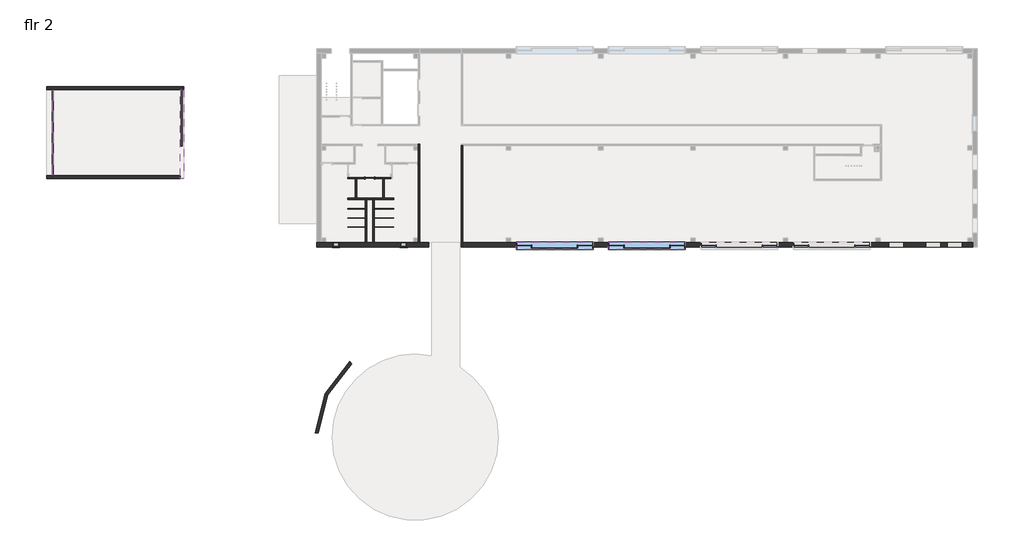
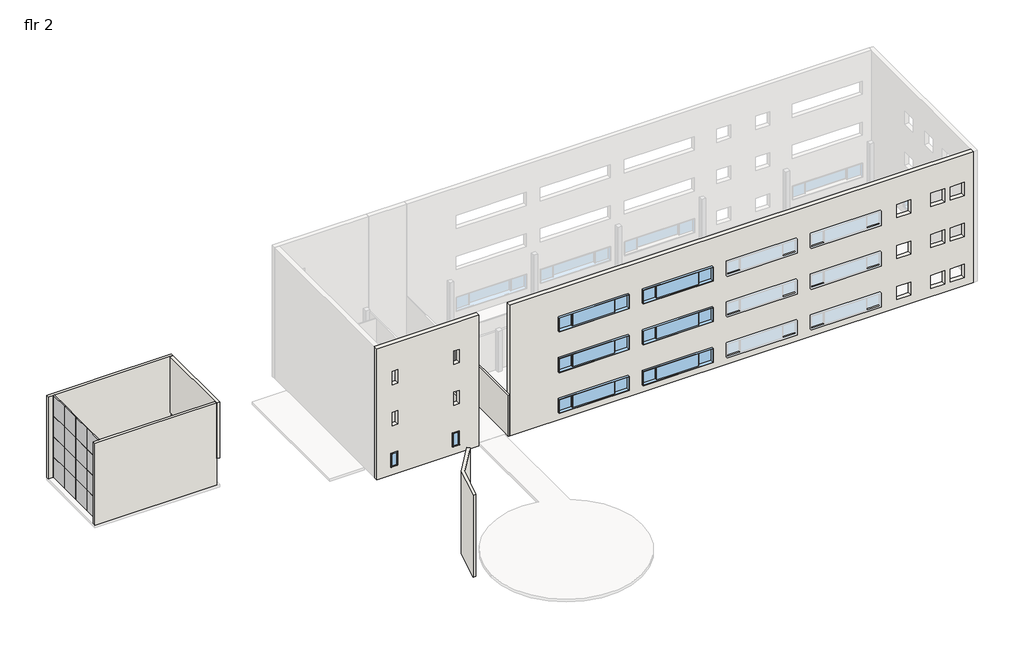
# One storey, part 1 of 3: 22 walls, 17 plates, 8 windows, 1 door.
"""IFC4 building model written with IfcOpenShell, lengths in millimetres."""

from ifc_helpers import new_model, si_unit, point, frame, frame_2d, origin, place, context, project, spatial, polyline, circle_curve, trimmed, segment, composite_curve, outline, extrude, faceted_brep, transform, mapped, element, save
from components import door_c6edcd30, system_panel_system_panel_769dcaa2, system_panel_system_panel_48f34c06, fixed_25_x5_r1_fixed_25_x5_r1_81c53d64, fixed_2_x5_0ba76afd

model = new_model("IFC4")

# Units and contexts
model_context = context("Model", 3, world=origin())
ifc_project = project(units=[si_unit("LENGTHUNIT", "METRE", prefix="MILLI")], contexts=[model_context])

# Site, building, storey
site = spatial("IfcSite", under=ifc_project)
building = spatial("IfcBuilding", under=site)
storey = spatial("IfcBuildingStorey", under=building, Name="flr 2", Elevation=5486.4)

# Door
placement = place(None, origin())
door_shape = door_c6edcd30(model_context)
element("IfcDoor", 1, ObjectType="Sgl Flush : 36\" x 84\"", at=placement, inside=storey, context=model_context, shape_type="MappedRepresentation", body=[
    mapped(door_shape, transform((-110751.290902, 31480.2571029, 5486.4), x_axis=(1.0, 0.0, 0.0), y_axis=(0.0, 1.0, 0.0), z_axis=(0.0, 0.0, 1.0))),
])

# Plates
system_panel_system_panel_shape = system_panel_system_panel_769dcaa2(model_context)
element("IfcPlate", 2, ObjectType="System Panel : System Panel", at=placement, inside=storey, context=model_context, shape_type="MappedRepresentation", body=[
    mapped(system_panel_system_panel_shape, transform((-142145.690902, 39156.6376272, 5486.4), x_axis=(0.0, -1.0, 0.0), y_axis=(1.0, 0.0, 0.0), z_axis=(0.0, 0.0, 1.0))),
])
element("IfcPlate", 3, ObjectType="System Panel : System Panel", at=placement, inside=storey, context=model_context, shape_type="MappedRepresentation", body=[
    mapped(system_panel_system_panel_shape, transform((-142145.690902, 34937.1597241, 5486.4), x_axis=(0.0, -1.0, 0.0), y_axis=(1.0, 0.0, 0.0), z_axis=(0.0, 0.0, 1.0))),
])
element("IfcPlate", 4, ObjectType="System Panel : System Panel", at=placement, inside=storey, context=model_context, shape_type="MappedRepresentation", body=[
    mapped(system_panel_system_panel_shape, transform((-142145.690902, 37046.8986756, 5486.4), x_axis=(0.0, -1.0, 0.0), y_axis=(1.0, 0.0, 0.0), z_axis=(0.0, 0.0, 1.0))),
])
element("IfcPlate", 5, ObjectType="System Panel : System Panel", at=placement, inside=storey, context=model_context, shape_type="MappedRepresentation", body=[
    mapped(system_panel_system_panel_shape, transform((-142145.690902, 32827.4207725, 5486.4), x_axis=(0.0, -1.0, 0.0), y_axis=(1.0, 0.0, 0.0), z_axis=(0.0, 0.0, 1.0))),
])
element("IfcPlate", 6, ObjectType="System Panel : System Panel", at=placement, inside=storey, context=model_context, shape_type="MappedRepresentation", body=[
    mapped(system_panel_system_panel_shape, transform((-142145.690902, 39156.6376272, 10210.8), x_axis=(0.0, -1.0, 0.0), y_axis=(1.0, 0.0, 0.0), z_axis=(0.0, 0.0, 1.0))),
])
element("IfcPlate", 7, ObjectType="System Panel : System Panel", at=placement, inside=storey, context=model_context, shape_type="MappedRepresentation", body=[
    mapped(system_panel_system_panel_shape, transform((-142145.690902, 37046.8986756, 10210.8), x_axis=(0.0, -1.0, 0.0), y_axis=(1.0, 0.0, 0.0), z_axis=(0.0, 0.0, 1.0))),
])
element("IfcPlate", 8, ObjectType="System Panel : System Panel", at=placement, inside=storey, context=model_context, shape_type="MappedRepresentation", body=[
    mapped(system_panel_system_panel_shape, transform((-142145.690902, 34937.1597241, 10210.8), x_axis=(0.0, -1.0, 0.0), y_axis=(1.0, 0.0, 0.0), z_axis=(0.0, 0.0, 1.0))),
])
element("IfcPlate", 9, ObjectType="System Panel : System Panel", at=placement, inside=storey, context=model_context, shape_type="MappedRepresentation", body=[
    mapped(system_panel_system_panel_shape, transform((-142145.690902, 32827.4207725, 10210.8), x_axis=(0.0, -1.0, 0.0), y_axis=(1.0, 0.0, 0.0), z_axis=(0.0, 0.0, 1.0))),
])
element("IfcPlate", 10, ObjectType="System Panel : System Panel", at=placement, inside=storey, context=model_context, shape_type="MappedRepresentation", body=[
    mapped(system_panel_system_panel_shape, transform((-142145.690902, 39156.6376272, 12573.0), x_axis=(0.0, -1.0, 0.0), y_axis=(1.0, 0.0, 0.0), z_axis=(0.0, 0.0, 1.0))),
])
element("IfcPlate", 11, ObjectType="System Panel : System Panel", at=placement, inside=storey, context=model_context, shape_type="MappedRepresentation", body=[
    mapped(system_panel_system_panel_shape, transform((-142145.690902, 37046.8986756, 12573.0), x_axis=(0.0, -1.0, 0.0), y_axis=(1.0, 0.0, 0.0), z_axis=(0.0, 0.0, 1.0))),
])
element("IfcPlate", 12, ObjectType="System Panel : System Panel", at=placement, inside=storey, context=model_context, shape_type="MappedRepresentation", body=[
    mapped(system_panel_system_panel_shape, transform((-142145.690902, 34937.1597241, 12573.0), x_axis=(0.0, -1.0, 0.0), y_axis=(1.0, 0.0, 0.0), z_axis=(0.0, 0.0, 1.0))),
])
element("IfcPlate", 13, ObjectType="System Panel : System Panel", at=placement, inside=storey, context=model_context, shape_type="MappedRepresentation", body=[
    mapped(system_panel_system_panel_shape, transform((-142145.690902, 32827.4207725, 12573.0), x_axis=(0.0, -1.0, 0.0), y_axis=(1.0, 0.0, 0.0), z_axis=(0.0, 0.0, 1.0))),
])
element("IfcPlate", 14, ObjectType="System Panel : System Panel", at=placement, inside=storey, context=model_context, shape_type="MappedRepresentation", body=[
    mapped(system_panel_system_panel_shape, transform((-142145.690902, 39156.6376272, 7848.6), x_axis=(0.0, -1.0, 0.0), y_axis=(1.0, 0.0, 0.0), z_axis=(0.0, 0.0, 1.0))),
])
element("IfcPlate", 15, ObjectType="System Panel : System Panel", at=placement, inside=storey, context=model_context, shape_type="MappedRepresentation", body=[
    mapped(system_panel_system_panel_shape, transform((-142145.690902, 37046.8986756, 7848.6), x_axis=(0.0, -1.0, 0.0), y_axis=(1.0, 0.0, 0.0), z_axis=(0.0, 0.0, 1.0))),
])
element("IfcPlate", 16, ObjectType="System Panel : System Panel", at=placement, inside=storey, context=model_context, shape_type="MappedRepresentation", body=[
    mapped(system_panel_system_panel_shape, transform((-142145.690902, 34937.1597241, 7848.6), x_axis=(0.0, -1.0, 0.0), y_axis=(1.0, 0.0, 0.0), z_axis=(0.0, 0.0, 1.0))),
])
element("IfcPlate", 17, ObjectType="System Panel : System Panel", at=placement, inside=storey, context=model_context, shape_type="MappedRepresentation", body=[
    mapped(system_panel_system_panel_shape, transform((-142145.690902, 32827.4207725, 7848.6), x_axis=(0.0, -1.0, 0.0), y_axis=(1.0, 0.0, 0.0), z_axis=(0.0, 0.0, 1.0))),
])
system_panel_system_panel_2_shape = system_panel_system_panel_48f34c06(model_context)
element("IfcPlate", 18, ObjectType="System Panel : System Panel", at=placement, inside=storey, context=model_context, shape_type="MappedRepresentation", body=[
    mapped(system_panel_system_panel_2_shape, transform((-129350.440902, 37509.6791999, 5486.4), x_axis=(0.0, -1.0, 0.0), y_axis=(1.0, 0.0, 0.0), z_axis=(0.0, 0.0, 1.0))),
])

# Walls
element("IfcWall", 19, ObjectType="Generic - 6\"", at=placement, inside=storey, context=model_context, shape_type="SweptSolid", body=[
    extrude(outline(polyline([(-142221.890902, 40211.5071029), (-142221.890902, 40240.0821029), (-142069.490902, 40240.0821029), (-142069.490902, 40211.5071029), (-142221.890902, 40211.5071029)])), frame((0.0, 0.0, 5486.4), z_axis=(0.0, 0.0, 1.0), x_axis=(1.0, 0.0, 0.0)), (0.0, 0.0, 1.0), 9448.8),
])
element("IfcWall", 20, ObjectType="Generic - 6\"", at=placement, inside=storey, context=model_context, shape_type="SweptSolid", body=[
    extrude(outline(polyline([(-142221.890902, 31731.2762968), (-142221.890902, 31772.5512968), (-142069.490902, 31772.5512968), (-142069.490902, 31731.2762968), (-142221.890902, 31731.2762968)])), frame((0.0, 0.0, 5486.4), z_axis=(0.0, 0.0, 1.0), x_axis=(1.0, 0.0, 0.0)), (0.0, 0.0, 1.0), 9448.8),
])
element("IfcWall", 21, ObjectType="Interior - 5 1/2\" Partition (1-hr)", at=placement, inside=storey, context=model_context, shape_type="Brep", body=[
    faceted_brep([(-105810.990902, 25084.2196029, 5486.4), (-105810.990902, 34826.7071029, 5486.4), (-105810.990902, 34826.7071029, 10210.8), (-105810.990902, 25084.2196029, 10210.8), (-105950.690902, 25084.2196029, 5486.4), (-105950.690902, 25084.2196029, 10210.8), (-105950.690902, 34826.7071029, 10210.8), (-105950.690902, 34826.7071029, 9906.0), (-105950.690902, 34826.7071029, 5486.4), (-105950.690902, 34687.0071029, 5486.4), (-105950.690902, 32997.9071029, 5486.4), (-105950.690902, 32858.2071029, 5486.4)], [[[0, 1, 2, 3]], [[4, 5, 6, 7, 8, 9, 10, 11]], [[1, 0, 4, 11, 10, 9, 8]], [[3, 2, 6, 5]], [[2, 1, 8, 7, 6]], [[0, 3, 5, 4]]]),
])
element("IfcWall", 22, ObjectType="Interior - 5 1/2\" Partition (1-hr)", at=placement, inside=storey, context=model_context, shape_type="Brep", body=[
    faceted_brep([(-108687.540902, 31550.1071029, 5486.4), (-110294.090902, 31550.1071029, 5486.4), (-110294.090902, 31550.1071029, 7620.0), (-111208.490902, 31550.1071029, 7620.0), (-111208.490902, 31550.1071029, 5486.4), (-112815.040902, 31550.1071029, 5486.4), (-112954.740902, 31550.1071029, 5486.4), (-112954.740902, 31550.1071029, 9906.0), (-112815.040902, 31550.1071029, 9906.0), (-108687.540902, 31550.1071029, 9906.0), (-110294.090902, 31410.4071029, 7620.0), (-110294.090902, 31410.4071029, 5486.4), (-109449.540902, 31410.4071029, 5486.4), (-109309.840902, 31410.4071029, 5486.4), (-108687.540902, 31410.4071029, 5486.4), (-108687.540902, 31410.4071029, 9906.0), (-109309.840902, 31410.4071029, 9906.0), (-109449.540902, 31410.4071029, 9906.0), (-112053.040902, 31410.4071029, 9906.0), (-112192.740902, 31410.4071029, 9906.0), (-112954.740902, 31410.4071029, 9906.0), (-112954.740902, 31410.4071029, 5486.4), (-112192.740902, 31410.4071029, 5486.4), (-112053.040902, 31410.4071029, 5486.4), (-111208.490902, 31410.4071029, 5486.4), (-111208.490902, 31410.4071029, 7620.0)], [[[0, 1, 2, 3, 4, 5, 6, 7, 8, 9]], [[10, 11, 12, 13, 14, 15, 16, 17, 18, 19, 20, 21, 22, 23, 24, 25]], [[14, 13, 12, 11, 1, 0]], [[24, 23, 22, 21, 6, 5, 4]], [[7, 6, 21, 20]], [[0, 9, 15, 14]], [[9, 8, 7, 20, 19, 18, 17, 16, 15]], [[2, 1, 11, 10]], [[3, 2, 10, 25]], [[4, 3, 25, 24]]]),
])
element("IfcWall", 23, ObjectType="Interior - 5 1/2\" Partition (1-hr)", at=placement, inside=storey, context=model_context, shape_type="Brep", body=[
    faceted_brep([(-110440.140902, 29351.4196029, 5486.4), (-110440.140902, 25084.2196029, 5486.4), (-110440.140902, 25084.2196029, 10210.8), (-110440.140902, 29351.4196029, 10210.8), (-110300.440902, 29351.4196029, 5486.4), (-110300.440902, 29351.4196029, 10210.8), (-110300.440902, 25084.2196029, 10210.8), (-110300.440902, 25084.2196029, 5486.4), (-110300.440902, 26620.9196029, 5486.4), (-110300.440902, 26646.3196029, 5486.4), (-110300.440902, 27509.9196029, 5486.4), (-110300.440902, 27535.3196029, 5486.4), (-110300.440902, 28424.3196029, 5486.4), (-110300.440902, 28449.7196029, 5486.4)], [[[0, 1, 2, 3]], [[4, 5, 6, 7, 8, 9, 10, 11, 12, 13]], [[1, 0, 4, 13, 12, 11, 10, 9, 8, 7]], [[3, 2, 6, 5]], [[0, 3, 5, 4]], [[2, 1, 7, 6]]]),
])
element("IfcWall", 24, ObjectType="Interior - 5 1/2\" Partition (1-hr)", at=placement, inside=storey, context=model_context, shape_type="Brep", body=[
    faceted_brep([(-112961.090902, 29351.4196029, 5486.4), (-111202.140902, 29351.4196029, 5486.4), (-111062.440902, 29351.4196029, 5486.4), (-110440.140902, 29351.4196029, 5486.4), (-110300.440902, 29351.4196029, 5486.4), (-108389.090902, 29351.4196029, 5486.4), (-108389.090902, 29351.4196029, 9906.0), (-112961.090902, 29351.4196029, 9906.0), (-112961.090902, 29491.1196029, 5486.4), (-112961.090902, 29491.1196029, 9906.0), (-112192.740902, 29491.1196029, 9906.0), (-112053.040902, 29491.1196029, 9906.0), (-109449.540902, 29491.1196029, 9906.0), (-109309.840902, 29491.1196029, 9906.0), (-108389.090902, 29491.1196029, 9906.0), (-108389.090902, 29491.1196029, 5486.4), (-109309.840902, 29491.1196029, 5486.4), (-109449.540902, 29491.1196029, 5486.4), (-112053.040902, 29491.1196029, 5486.4), (-112192.740902, 29491.1196029, 5486.4)], [[[0, 1, 2, 3, 4, 5, 6, 7]], [[8, 9, 10, 11, 12, 13, 14, 15, 16, 17, 18, 19]], [[5, 4, 3, 2, 1, 0, 8, 19, 18, 17, 16, 15]], [[6, 5, 15, 14]], [[0, 7, 9, 8]], [[7, 6, 14, 13, 12, 11, 10, 9]]]),
])
element("IfcWall", 25, ObjectType="Interior - 5 1/2\" Partition (1-hr)", at=placement, inside=storey, context=model_context, shape_type="SweptSolid", body=[
    extrude(outline(polyline([(-109309.840902, 31410.4071029), (-109309.840902, 29491.1196029), (-109449.540902, 29491.1196029), (-109449.540902, 31410.4071029), (-109309.840902, 31410.4071029)])), frame((0.0, 0.0, 5486.4), z_axis=(0.0, 0.0, 1.0), x_axis=(1.0, 0.0, 0.0)), (0.0, 0.0, 1.0), 4419.6),
])
element("IfcWall", 26, ObjectType="Interior - 5 1/2\" Partition (1-hr)", at=placement, inside=storey, context=model_context, shape_type="Brep", body=[
    faceted_brep([(-111202.140902, 29351.4196029, 5486.4), (-111202.140902, 28449.7196029, 5486.4), (-111202.140902, 28424.3196029, 5486.4), (-111202.140902, 27535.3196029, 5486.4), (-111202.140902, 27509.9196029, 5486.4), (-111202.140902, 26646.3196029, 5486.4), (-111202.140902, 26620.9196029, 5486.4), (-111202.140902, 25084.2196029, 5486.4), (-111202.140902, 25084.2196029, 10210.8), (-111202.140902, 29351.4196029, 10210.8), (-111062.440902, 29351.4196029, 5486.4), (-111062.440902, 29351.4196029, 10210.8), (-111062.440902, 25084.2196029, 10210.8), (-111062.440902, 25084.2196029, 5486.4)], [[[0, 1, 2, 3, 4, 5, 6, 7, 8, 9]], [[10, 11, 12, 13]], [[7, 6, 5, 4, 3, 2, 1, 0, 10, 13]], [[9, 8, 12, 11]], [[0, 9, 11, 10]], [[8, 7, 13, 12]]]),
])
element("IfcWall", 27, ObjectType="Interior - 5 1/2\" Partition (1-hr)", at=placement, inside=storey, context=model_context, shape_type="SweptSolid", body=[
    extrude(outline(polyline([(-112192.740902, 29491.1196029), (-112192.740902, 31410.4071029), (-112053.040902, 31410.4071029), (-112053.040902, 29491.1196029), (-112192.740902, 29491.1196029)])), frame((0.0, 0.0, 5486.4), z_axis=(0.0, 0.0, 1.0), x_axis=(1.0, 0.0, 0.0)), (0.0, 0.0, 1.0), 4419.6),
])
element("IfcWall", 28, ObjectType="Interior - 5 1/2\" Partition (1-hr)", at=placement, inside=storey, context=model_context, shape_type="Brep", body=[
    faceted_brep([(-101677.140902, 34687.0071029, 5486.4), (-101677.140902, 24630.1946029, 5486.4), (-101677.140902, 24630.1946029, 10210.8), (-101677.140902, 34687.0071029, 10210.8), (-101677.140902, 34687.0071029, 9906.0), (-101537.440902, 34687.0071029, 5486.4), (-101537.440902, 34687.0071029, 10210.8), (-101537.440902, 24630.1946029, 10210.8), (-101537.440902, 24630.1946029, 5486.4), (-101537.440902, 25084.2196029, 5486.4)], [[[0, 1, 2, 3, 4]], [[5, 6, 7, 8, 9]], [[1, 0, 5, 9, 8]], [[3, 2, 7, 6]], [[0, 4, 3, 6, 5]], [[2, 1, 8, 7]]]),
])
element("IfcWall", 29, ObjectType="a_Mtl panel on Mtl stud", at=placement, inside=storey, context=model_context, shape_type="Brep", body=[
    faceted_brep([(-142755.290902, 40240.0821029, 5486.4), (-142221.890902, 40240.0821029, 5486.4), (-142069.490902, 40240.0821029, 5486.4), (-129194.865902, 40240.0821029, 5486.4), (-129194.865902, 40240.0821029, 8534.4), (-129194.865902, 40240.0821029, 14935.2), (-129506.015902, 40240.0821029, 14935.2), (-142069.490902, 40240.0821029, 14935.2), (-142221.890902, 40240.0821029, 14935.2), (-142755.290902, 40240.0821029, 14935.2), (-142755.290902, 40551.2321029, 5486.4), (-142755.290902, 40551.2321029, 14935.2), (-137857.7702369, 40551.2321029, 14935.2), (-137421.290902, 40551.2321029, 14935.2), (-129194.865902, 40551.2321029, 14935.2), (-129194.865902, 40551.2321029, 5486.4)], [[[0, 1, 2, 3, 4, 5, 6, 7, 8, 9]], [[10, 11, 12, 13, 14, 15]], [[3, 2, 1, 0, 10, 15]], [[9, 8, 7, 6, 5, 14, 13, 12, 11]], [[0, 9, 11, 10]], [[5, 4, 3, 15, 14]]]),
])
element("IfcWall", 30, ObjectType="a_Mtl panel on Mtl stud", at=placement, inside=storey, context=model_context, shape_type="Brep", body=[
    faceted_brep([(-129506.015902, 31731.2762968, 5486.4), (-142069.490902, 31731.2762968, 5486.4), (-142221.890902, 31731.2762968, 5486.4), (-142755.290902, 31731.2762968, 5486.4), (-142755.290902, 31731.2762968, 14935.2), (-142221.890902, 31731.2762968, 14935.2), (-142069.490902, 31731.2762968, 14935.2), (-129506.015902, 31731.2762968, 14935.2), (-129506.015902, 31420.1262968, 5486.4), (-129506.015902, 31420.1262968, 8534.4), (-129506.015902, 31420.1262968, 14935.2), (-137421.290902, 31420.1262968, 14935.2), (-137857.7702369, 31420.1262968, 14935.2), (-142755.290902, 31420.1262968, 14935.2), (-142755.290902, 31420.1262968, 5486.4)], [[[0, 1, 2, 3, 4, 5, 6, 7]], [[8, 9, 10, 11, 12, 13, 14]], [[3, 2, 1, 0, 8, 14]], [[4, 3, 14, 13]], [[7, 6, 5, 4, 13, 12, 11, 10]], [[0, 7, 10, 9, 8]]]),
])
element("IfcWall", 31, ObjectType="a_Mtl panel on Mtl stud", at=placement, inside=storey, context=model_context, shape_type="Brep", body=[
    faceted_brep([(-129506.015902, 40240.0821029, 8534.4), (-129506.015902, 31420.1262968, 8534.4), (-129506.015902, 31420.1262968, 14935.2), (-129506.015902, 31731.2762968, 14935.2), (-129506.015902, 40240.0821029, 14935.2), (-129194.865902, 40240.0821029, 8534.4), (-129194.865902, 40240.0821029, 14935.2), (-129194.865902, 31420.1262968, 14935.2), (-129194.865902, 31420.1262968, 8534.4)], [[[0, 1, 2, 3, 4]], [[5, 6, 7, 8]], [[1, 0, 5, 8]], [[4, 3, 2, 7, 6]], [[2, 1, 8, 7]], [[0, 4, 6, 5]]]),
])
element("IfcWall", 32, ObjectType="a_Stone on CMU", at=placement, inside=storey, context=model_context, shape_type="Brep", body=[
    faceted_brep([(-104912.8074925, 25084.2196029, 5486.4), (-105810.990902, 25084.2196029, 5486.4), (-105950.690902, 25084.2196029, 5486.4), (-110300.440902, 25084.2196029, 5486.4), (-110440.140902, 25084.2196029, 5486.4), (-111062.440902, 25084.2196029, 5486.4), (-111202.140902, 25084.2196029, 5486.4), (-115553.8578209, 25084.2196029, 5486.4), (-116007.8828209, 25084.2196029, 5486.4), (-116007.8828209, 25084.2196029, 20574.0), (-115553.8578209, 25084.2196029, 20574.0), (-104912.8074925, 25084.2196029, 20574.0), (-104912.8074925, 25084.2196029, 19659.6), (-107703.290902, 25084.2196029, 7924.8), (-107703.290902, 25084.2196029, 6400.8), (-107093.690902, 25084.2196029, 6400.8), (-107093.690902, 25084.2196029, 7924.8), (-114408.890902, 25084.2196029, 7924.8), (-114408.890902, 25084.2196029, 6400.8), (-113799.290902, 25084.2196029, 6400.8), (-113799.290902, 25084.2196029, 7924.8), (-107633.440902, 25084.2196029, 12649.2), (-107633.440902, 25084.2196029, 11125.2), (-107023.840902, 25084.2196029, 11125.2), (-107023.840902, 25084.2196029, 12649.2), (-114339.040902, 25084.2196029, 12649.2), (-114339.040902, 25084.2196029, 11125.2), (-113729.440902, 25084.2196029, 11125.2), (-113729.440902, 25084.2196029, 12649.2), (-107633.440902, 25084.2196029, 17373.6), (-107633.440902, 25084.2196029, 15849.6), (-107023.840902, 25084.2196029, 15849.6), (-107023.840902, 25084.2196029, 17373.6), (-114339.040902, 25084.2196029, 17373.6), (-114339.040902, 25084.2196029, 15849.6), (-113729.440902, 25084.2196029, 15849.6), (-113729.440902, 25084.2196029, 17373.6), (-104912.8074925, 24630.1946029, 5486.4), (-104912.8074925, 24630.1946029, 20574.0), (-116007.8828209, 24630.1946029, 20574.0), (-116007.8828209, 24630.1946029, 5486.4), (-107703.290902, 24630.1946029, 7924.8), (-107093.690902, 24630.1946029, 7924.8), (-107093.690902, 24630.1946029, 6400.8), (-107703.290902, 24630.1946029, 6400.8), (-114408.890902, 24630.1946029, 7924.8), (-113799.290902, 24630.1946029, 7924.8), (-113799.290902, 24630.1946029, 6400.8), (-114408.890902, 24630.1946029, 6400.8), (-107633.440902, 24630.1946029, 12649.2), (-107023.840902, 24630.1946029, 12649.2), (-107023.840902, 24630.1946029, 11125.2), (-107633.440902, 24630.1946029, 11125.2), (-114339.040902, 24630.1946029, 12649.2), (-113729.440902, 24630.1946029, 12649.2), (-113729.440902, 24630.1946029, 11125.2), (-114339.040902, 24630.1946029, 11125.2), (-107633.440902, 24630.1946029, 17373.6), (-107023.840902, 24630.1946029, 17373.6), (-107023.840902, 24630.1946029, 15849.6), (-107633.440902, 24630.1946029, 15849.6), (-114339.040902, 24630.1946029, 17373.6), (-113729.440902, 24630.1946029, 17373.6), (-113729.440902, 24630.1946029, 15849.6), (-114339.040902, 24630.1946029, 15849.6)], [[[0, 1, 2, 3, 4, 5, 6, 7, 8, 9, 10, 11, 12], [13, 14, 15, 16], [17, 18, 19, 20], [21, 22, 23, 24], [25, 26, 27, 28], [29, 30, 31, 32], [33, 34, 35, 36]], [[37, 38, 39, 40], [41, 42, 43, 44], [45, 46, 47, 48], [49, 50, 51, 52], [53, 54, 55, 56], [57, 58, 59, 60], [61, 62, 63, 64]], [[8, 7, 6, 5, 4, 3, 2, 1, 0, 37, 40]], [[11, 10, 9, 39, 38]], [[9, 8, 40, 39]], [[0, 12, 11, 38, 37]], [[14, 13, 41, 44]], [[15, 14, 44, 43]], [[16, 15, 43, 42]], [[13, 16, 42, 41]], [[18, 17, 45, 48]], [[19, 18, 48, 47]], [[20, 19, 47, 46]], [[17, 20, 46, 45]], [[22, 21, 49, 52]], [[23, 22, 52, 51]], [[24, 23, 51, 50]], [[21, 24, 50, 49]], [[26, 25, 53, 56]], [[27, 26, 56, 55]], [[28, 27, 55, 54]], [[25, 28, 54, 53]], [[30, 29, 57, 60]], [[31, 30, 60, 59]], [[32, 31, 59, 58]], [[29, 32, 58, 57]], [[34, 33, 61, 64]], [[35, 34, 64, 63]], [[36, 35, 63, 62]], [[33, 36, 62, 61]]]),
])
element("IfcWall", 33, ObjectType="a_Stone on CMU", at=placement, inside=storey, context=model_context, shape_type="Brep", body=[
    faceted_brep([(-51085.103402, 25084.2196029, 5486.4), (-101537.440902, 25084.2196029, 5486.4), (-101537.440902, 25084.2196029, 20574.0), (-51085.103402, 25084.2196029, 20574.0), (-59398.840902, 25084.2196029, 17373.6), (-59398.840902, 25084.2196029, 15849.6), (-57874.840902, 25084.2196029, 15849.6), (-57874.840902, 25084.2196029, 17373.6), (-55741.240902, 25084.2196029, 17373.6), (-55741.240902, 25084.2196029, 15849.6), (-54217.240902, 25084.2196029, 15849.6), (-54217.240902, 25084.2196029, 17373.6), (-53607.640902, 25084.2196029, 17373.6), (-53607.640902, 25084.2196029, 15849.6), (-52083.640902, 25084.2196029, 15849.6), (-52083.640902, 25084.2196029, 17373.6), (-59398.840902, 25084.2196029, 12649.2), (-59398.840902, 25084.2196029, 11125.2), (-57874.840902, 25084.2196029, 11125.2), (-57874.840902, 25084.2196029, 12649.2), (-55741.240902, 25084.2196029, 12649.2), (-55741.240902, 25084.2196029, 11125.2), (-54217.240902, 25084.2196029, 11125.2), (-54217.240902, 25084.2196029, 12649.2), (-53607.640902, 25084.2196029, 12649.2), (-53607.640902, 25084.2196029, 11125.2), (-52083.640902, 25084.2196029, 11125.2), (-52083.640902, 25084.2196029, 12649.2), (-59398.840902, 25084.2196029, 7924.8), (-59398.840902, 25084.2196029, 6400.8), (-57874.840902, 25084.2196029, 6400.8), (-57874.840902, 25084.2196029, 7924.8), (-55741.240902, 25084.2196029, 7924.8), (-55741.240902, 25084.2196029, 6400.8), (-54217.240902, 25084.2196029, 6400.8), (-54217.240902, 25084.2196029, 7924.8), (-53607.640902, 25084.2196029, 7924.8), (-53607.640902, 25084.2196029, 6400.8), (-52083.640902, 25084.2196029, 6400.8), (-52083.640902, 25084.2196029, 7924.8), (-96273.290902, 25084.2196029, 7924.8), (-96273.290902, 25084.2196029, 6400.8), (-88653.290902, 25084.2196029, 6400.8), (-88653.290902, 25084.2196029, 7924.8), (-96273.290902, 25084.2196029, 12623.8), (-96273.290902, 25084.2196029, 11099.8), (-88653.290902, 25084.2196029, 11099.8), (-88653.290902, 25084.2196029, 12623.8), (-96273.290902, 25084.2196029, 17322.8), (-96273.290902, 25084.2196029, 15798.8), (-88653.290902, 25084.2196029, 15798.8), (-88653.290902, 25084.2196029, 17322.8), (-87129.290902, 25084.2196029, 7924.8), (-87129.290902, 25084.2196029, 6400.8), (-79509.290902, 25084.2196029, 6400.8), (-79509.290902, 25084.2196029, 7924.8), (-87129.290902, 25084.2196029, 12623.8), (-87129.290902, 25084.2196029, 11099.8), (-79509.290902, 25084.2196029, 11099.8), (-79509.290902, 25084.2196029, 12623.8), (-87129.290902, 25084.2196029, 17322.8), (-87129.290902, 25084.2196029, 15798.8), (-79509.290902, 25084.2196029, 15798.8), (-79509.290902, 25084.2196029, 17322.8), (-77985.290902, 25084.2196029, 7924.8), (-77985.290902, 25084.2196029, 6400.8), (-70365.290902, 25084.2196029, 6400.8), (-70365.290902, 25084.2196029, 7924.8), (-77985.290902, 25084.2196029, 12623.8), (-77985.290902, 25084.2196029, 11099.8), (-70365.290902, 25084.2196029, 11099.8), (-70365.290902, 25084.2196029, 12623.8), (-77985.290902, 25084.2196029, 17322.8), (-77985.290902, 25084.2196029, 15798.8), (-70365.290902, 25084.2196029, 15798.8), (-70365.290902, 25084.2196029, 17322.8), (-68841.290902, 25084.2196029, 7924.8), (-68841.290902, 25084.2196029, 6400.8), (-61221.290902, 25084.2196029, 6400.8), (-61221.290902, 25084.2196029, 7924.8), (-68841.290902, 25084.2196029, 12623.8), (-68841.290902, 25084.2196029, 11099.8), (-61221.290902, 25084.2196029, 11099.8), (-61221.290902, 25084.2196029, 12623.8), (-68841.290902, 25084.2196029, 17322.8), (-68841.290902, 25084.2196029, 15798.8), (-61221.290902, 25084.2196029, 15798.8), (-61221.290902, 25084.2196029, 17322.8), (-51085.103402, 24630.1946029, 5486.4), (-51085.103402, 24630.1946029, 20574.0), (-101537.440902, 24630.1946029, 20574.0), (-101537.440902, 24630.1946029, 19659.6), (-101537.440902, 24630.1946029, 14935.2), (-101537.440902, 24630.1946029, 10210.8), (-101537.440902, 24630.1946029, 5486.4), (-59398.840902, 24630.1946029, 17373.6), (-57874.840902, 24630.1946029, 17373.6), (-57874.840902, 24630.1946029, 15849.6), (-59398.840902, 24630.1946029, 15849.6), (-55741.240902, 24630.1946029, 17373.6), (-54217.240902, 24630.1946029, 17373.6), (-54217.240902, 24630.1946029, 15849.6), (-55741.240902, 24630.1946029, 15849.6), (-53607.640902, 24630.1946029, 17373.6), (-52083.640902, 24630.1946029, 17373.6), (-52083.640902, 24630.1946029, 15849.6), (-53607.640902, 24630.1946029, 15849.6), (-59398.840902, 24630.1946029, 12649.2), (-57874.840902, 24630.1946029, 12649.2), (-57874.840902, 24630.1946029, 11125.2), (-59398.840902, 24630.1946029, 11125.2), (-55741.240902, 24630.1946029, 12649.2), (-54217.240902, 24630.1946029, 12649.2), (-54217.240902, 24630.1946029, 11125.2), (-55741.240902, 24630.1946029, 11125.2), (-53607.640902, 24630.1946029, 12649.2), (-52083.640902, 24630.1946029, 12649.2), (-52083.640902, 24630.1946029, 11125.2), (-53607.640902, 24630.1946029, 11125.2), (-59398.840902, 24630.1946029, 7924.8), (-57874.840902, 24630.1946029, 7924.8), (-57874.840902, 24630.1946029, 6400.8), (-59398.840902, 24630.1946029, 6400.8), (-55741.240902, 24630.1946029, 7924.8), (-54217.240902, 24630.1946029, 7924.8), (-54217.240902, 24630.1946029, 6400.8), (-55741.240902, 24630.1946029, 6400.8), (-53607.640902, 24630.1946029, 7924.8), (-52083.640902, 24630.1946029, 7924.8), (-52083.640902, 24630.1946029, 6400.8), (-53607.640902, 24630.1946029, 6400.8), (-96273.290902, 24630.1946029, 7924.8), (-88653.290902, 24630.1946029, 7924.8), (-88653.290902, 24630.1946029, 6400.8), (-96273.290902, 24630.1946029, 6400.8), (-96273.290902, 24630.1946029, 12623.8), (-88653.290902, 24630.1946029, 12623.8), (-88653.290902, 24630.1946029, 11099.8), (-96273.290902, 24630.1946029, 11099.8), (-96273.290902, 24630.1946029, 17322.8), (-88653.290902, 24630.1946029, 17322.8), (-88653.290902, 24630.1946029, 15798.8), (-96273.290902, 24630.1946029, 15798.8), (-87129.290902, 24630.1946029, 7924.8), (-79509.290902, 24630.1946029, 7924.8), (-79509.290902, 24630.1946029, 6400.8), (-87129.290902, 24630.1946029, 6400.8), (-87129.290902, 24630.1946029, 12623.8), (-79509.290902, 24630.1946029, 12623.8), (-79509.290902, 24630.1946029, 11099.8), (-87129.290902, 24630.1946029, 11099.8), (-87129.290902, 24630.1946029, 17322.8), (-79509.290902, 24630.1946029, 17322.8), (-79509.290902, 24630.1946029, 15798.8), (-87129.290902, 24630.1946029, 15798.8), (-77985.290902, 24630.1946029, 7924.8), (-70365.290902, 24630.1946029, 7924.8), (-70365.290902, 24630.1946029, 6400.8), (-77985.290902, 24630.1946029, 6400.8), (-77985.290902, 24630.1946029, 12623.8), (-70365.290902, 24630.1946029, 12623.8), (-70365.290902, 24630.1946029, 11099.8), (-77985.290902, 24630.1946029, 11099.8), (-77985.290902, 24630.1946029, 17322.8), (-70365.290902, 24630.1946029, 17322.8), (-70365.290902, 24630.1946029, 15798.8), (-77985.290902, 24630.1946029, 15798.8), (-68841.290902, 24630.1946029, 7924.8), (-61221.290902, 24630.1946029, 7924.8), (-61221.290902, 24630.1946029, 6400.8), (-68841.290902, 24630.1946029, 6400.8), (-68841.290902, 24630.1946029, 12623.8), (-61221.290902, 24630.1946029, 12623.8), (-61221.290902, 24630.1946029, 11099.8), (-68841.290902, 24630.1946029, 11099.8), (-68841.290902, 24630.1946029, 17322.8), (-61221.290902, 24630.1946029, 17322.8), (-61221.290902, 24630.1946029, 15798.8), (-68841.290902, 24630.1946029, 15798.8)], [[[0, 1, 2, 3], [4, 5, 6, 7], [8, 9, 10, 11], [12, 13, 14, 15], [16, 17, 18, 19], [20, 21, 22, 23], [24, 25, 26, 27], [28, 29, 30, 31], [32, 33, 34, 35], [36, 37, 38, 39], [40, 41, 42, 43], [44, 45, 46, 47], [48, 49, 50, 51], [52, 53, 54, 55], [56, 57, 58, 59], [60, 61, 62, 63], [64, 65, 66, 67], [68, 69, 70, 71], [72, 73, 74, 75], [76, 77, 78, 79], [80, 81, 82, 83], [84, 85, 86, 87]], [[88, 89, 90, 91, 92, 93, 94], [95, 96, 97, 98], [99, 100, 101, 102], [103, 104, 105, 106], [107, 108, 109, 110], [111, 112, 113, 114], [115, 116, 117, 118], [119, 120, 121, 122], [123, 124, 125, 126], [127, 128, 129, 130], [131, 132, 133, 134], [135, 136, 137, 138], [139, 140, 141, 142], [143, 144, 145, 146], [147, 148, 149, 150], [151, 152, 153, 154], [155, 156, 157, 158], [159, 160, 161, 162], [163, 164, 165, 166], [167, 168, 169, 170], [171, 172, 173, 174], [175, 176, 177, 178]], [[1, 0, 88, 94]], [[3, 2, 90, 89]], [[0, 3, 89, 88]], [[2, 1, 94, 93, 92, 91, 90]], [[5, 4, 95, 98]], [[6, 5, 98, 97]], [[7, 6, 97, 96]], [[4, 7, 96, 95]], [[9, 8, 99, 102]], [[10, 9, 102, 101]], [[11, 10, 101, 100]], [[8, 11, 100, 99]], [[13, 12, 103, 106]], [[14, 13, 106, 105]], [[15, 14, 105, 104]], [[12, 15, 104, 103]], [[17, 16, 107, 110]], [[18, 17, 110, 109]], [[19, 18, 109, 108]], [[16, 19, 108, 107]], [[21, 20, 111, 114]], [[22, 21, 114, 113]], [[23, 22, 113, 112]], [[20, 23, 112, 111]], [[25, 24, 115, 118]], [[26, 25, 118, 117]], [[27, 26, 117, 116]], [[24, 27, 116, 115]], [[29, 28, 119, 122]], [[30, 29, 122, 121]], [[31, 30, 121, 120]], [[28, 31, 120, 119]], [[33, 32, 123, 126]], [[34, 33, 126, 125]], [[35, 34, 125, 124]], [[32, 35, 124, 123]], [[37, 36, 127, 130]], [[38, 37, 130, 129]], [[39, 38, 129, 128]], [[36, 39, 128, 127]], [[41, 40, 131, 134]], [[42, 41, 134, 133]], [[43, 42, 133, 132]], [[40, 43, 132, 131]], [[45, 44, 135, 138]], [[46, 45, 138, 137]], [[47, 46, 137, 136]], [[44, 47, 136, 135]], [[49, 48, 139, 142]], [[50, 49, 142, 141]], [[51, 50, 141, 140]], [[48, 51, 140, 139]], [[53, 52, 143, 146]], [[54, 53, 146, 145]], [[55, 54, 145, 144]], [[52, 55, 144, 143]], [[57, 56, 147, 150]], [[58, 57, 150, 149]], [[59, 58, 149, 148]], [[56, 59, 148, 147]], [[61, 60, 151, 154]], [[62, 61, 154, 153]], [[63, 62, 153, 152]], [[60, 63, 152, 151]], [[65, 64, 155, 158]], [[66, 65, 158, 157]], [[67, 66, 157, 156]], [[64, 67, 156, 155]], [[69, 68, 159, 162]], [[70, 69, 162, 161]], [[71, 70, 161, 160]], [[68, 71, 160, 159]], [[73, 72, 163, 166]], [[74, 73, 166, 165]], [[75, 74, 165, 164]], [[72, 75, 164, 163]], [[77, 76, 167, 170]], [[78, 77, 170, 169]], [[79, 78, 169, 168]], [[76, 79, 168, 167]], [[81, 80, 171, 174]], [[82, 81, 174, 173]], [[83, 82, 173, 172]], [[80, 83, 172, 171]], [[85, 84, 175, 178]], [[86, 85, 178, 177]], [[87, 86, 177, 176]], [[84, 87, 176, 175]]]),
])
element("IfcWall", 34, ObjectType="a_panel enamel", at=placement, inside=storey, context=model_context, shape_type="SweptSolid", body=[
    extrude(outline(composite_curve([segment(polyline([(-115848.2309317, 6210.171324), (-116152.7623612, 6222.9638389)]), True, "CONTINUOUS"), segment(trimmed(circle_curve(frame_2d((-106255.490902, 5807.2071029)), 9906.0), [point((-116152.7623612, 6222.9638389))], [point((-112722.7866427, 13310.7343937))], False, "CARTESIAN"), True, "CONTINUOUS"), segment(polyline([(-112722.7866427, 13310.7343937), (-112523.7929276, 13079.8566309)]), True, "CONTINUOUS"), segment(trimmed(circle_curve(frame_2d((-106255.490902, 5807.2071029)), 9601.2), [point((-112523.7929276, 13079.8566309))], [point((-115848.2309317, 6210.171324))], True, "CARTESIAN"), True, "CONTINUOUS")], self_intersect=False)), frame((0.0, 0.0, 5486.4), z_axis=(0.0, 0.0, 1.0), x_axis=(1.0, 0.0, 0.0)), (0.0, 0.0, 1.0), 9448.8),
])
element("IfcWall", 35, ObjectType="toilet partition - 1\"", at=placement, inside=storey, context=model_context, shape_type="SweptSolid", body=[
    extrude(outline(polyline([(-108389.090902, 26620.9196029), (-110300.440902, 26620.9196029), (-110300.440902, 26646.3196029), (-108389.090902, 26646.3196029), (-108389.090902, 26620.9196029)])), frame((0.0, 0.0, 5486.4), z_axis=(0.0, 0.0, 1.0), x_axis=(1.0, 0.0, 0.0)), (0.0, 0.0, 1.0), 2438.4),
])
element("IfcWall", 36, ObjectType="toilet partition - 1\"", at=placement, inside=storey, context=model_context, shape_type="SweptSolid", body=[
    extrude(outline(polyline([(-108389.090902, 27509.9196029), (-110300.440902, 27509.9196029), (-110300.440902, 27535.3196029), (-108389.090902, 27535.3196029), (-108389.090902, 27509.9196029)])), frame((0.0, 0.0, 5486.4), z_axis=(0.0, 0.0, 1.0), x_axis=(1.0, 0.0, 0.0)), (0.0, 0.0, 1.0), 2438.4),
])
element("IfcWall", 37, ObjectType="toilet partition - 1\"", at=placement, inside=storey, context=model_context, shape_type="SweptSolid", body=[
    extrude(outline(polyline([(-108389.090902, 28424.3196029), (-110300.440902, 28424.3196029), (-110300.440902, 28449.7196029), (-108389.090902, 28449.7196029), (-108389.090902, 28424.3196029)])), frame((0.0, 0.0, 5486.4), z_axis=(0.0, 0.0, 1.0), x_axis=(1.0, 0.0, 0.0)), (0.0, 0.0, 1.0), 2438.4),
])
element("IfcWall", 38, ObjectType="toilet partition - 1\"", at=placement, inside=storey, context=model_context, shape_type="SweptSolid", body=[
    extrude(outline(polyline([(-112961.090902, 28449.7196029), (-111202.140902, 28449.7196029), (-111202.140902, 28424.3196029), (-112961.090902, 28424.3196029), (-112961.090902, 28449.7196029)])), frame((0.0, 0.0, 5486.4), z_axis=(0.0, 0.0, 1.0), x_axis=(1.0, 0.0, 0.0)), (0.0, 0.0, 1.0), 2438.4),
])
element("IfcWall", 39, ObjectType="toilet partition - 1\"", at=placement, inside=storey, context=model_context, shape_type="SweptSolid", body=[
    extrude(outline(polyline([(-112961.090902, 27535.3196029), (-111202.140902, 27535.3196029), (-111202.140902, 27509.9196029), (-112961.090902, 27509.9196029), (-112961.090902, 27535.3196029)])), frame((0.0, 0.0, 5486.4), z_axis=(0.0, 0.0, 1.0), x_axis=(1.0, 0.0, 0.0)), (0.0, 0.0, 1.0), 2438.4),
])
element("IfcWall", 40, ObjectType="toilet partition - 1\"", at=placement, inside=storey, context=model_context, shape_type="SweptSolid", body=[
    extrude(outline(polyline([(-112961.090902, 26646.3196029), (-111202.140902, 26646.3196029), (-111202.140902, 26620.9196029), (-112961.090902, 26620.9196029), (-112961.090902, 26646.3196029)])), frame((0.0, 0.0, 5486.4), z_axis=(0.0, 0.0, 1.0), x_axis=(1.0, 0.0, 0.0)), (0.0, 0.0, 1.0), 2438.4),
])

# Windows
fixed_25_x5_r1_fixed_25_x5_r1_shape = fixed_25_x5_r1_fixed_25_x5_r1_81c53d64(model_context)
element("IfcWindow", 41, ObjectType="Fixed 25'x5'-r1 : Fixed 25'x5'-r1", at=placement, inside=storey, context=model_context, shape_type="MappedRepresentation", body=[
    mapped(fixed_25_x5_r1_fixed_25_x5_r1_shape, transform((-92717.290902, 24857.2071029, 5486.4), x_axis=(-1.0, 0.0, 0.0), y_axis=(0.0, -1.0, 0.0), z_axis=(0.0, 0.0, 1.0))),
])
element("IfcWindow", 42, ObjectType="Fixed 25'x5'-r1 : Fixed 25'x5'-r1", at=placement, inside=storey, context=model_context, shape_type="MappedRepresentation", body=[
    mapped(fixed_25_x5_r1_fixed_25_x5_r1_shape, transform((-92717.290902, 24857.2071029, 10185.4), x_axis=(-1.0, 0.0, 0.0), y_axis=(0.0, -1.0, 0.0), z_axis=(0.0, 0.0, 1.0))),
])
element("IfcWindow", 43, ObjectType="Fixed 25'x5'-r1 : Fixed 25'x5'-r1", at=placement, inside=storey, context=model_context, shape_type="MappedRepresentation", body=[
    mapped(fixed_25_x5_r1_fixed_25_x5_r1_shape, transform((-92717.290902, 24857.2071029, 14884.4), x_axis=(-1.0, 0.0, 0.0), y_axis=(0.0, -1.0, 0.0), z_axis=(0.0, 0.0, 1.0))),
])
element("IfcWindow", 44, ObjectType="Fixed 25'x5'-r1 : Fixed 25'x5'-r1", at=placement, inside=storey, context=model_context, shape_type="MappedRepresentation", body=[
    mapped(fixed_25_x5_r1_fixed_25_x5_r1_shape, transform((-83573.290902, 24857.2071029, 5486.4), x_axis=(-1.0, 0.0, 0.0), y_axis=(0.0, -1.0, 0.0), z_axis=(0.0, 0.0, 1.0))),
])
element("IfcWindow", 45, ObjectType="Fixed 25'x5'-r1 : Fixed 25'x5'-r1", at=placement, inside=storey, context=model_context, shape_type="MappedRepresentation", body=[
    mapped(fixed_25_x5_r1_fixed_25_x5_r1_shape, transform((-83573.290902, 24857.2071029, 10185.4), x_axis=(-1.0, 0.0, 0.0), y_axis=(0.0, -1.0, 0.0), z_axis=(0.0, 0.0, 1.0))),
])
element("IfcWindow", 46, ObjectType="Fixed 25'x5'-r1 : Fixed 25'x5'-r1", at=placement, inside=storey, context=model_context, shape_type="MappedRepresentation", body=[
    mapped(fixed_25_x5_r1_fixed_25_x5_r1_shape, transform((-83573.290902, 24857.2071029, 14884.4), x_axis=(-1.0, 0.0, 0.0), y_axis=(0.0, -1.0, 0.0), z_axis=(0.0, 0.0, 1.0))),
])
fixed_2_x5_shape = fixed_2_x5_0ba76afd(model_context)
element("IfcWindow", 47, ObjectType="Fixed : 2'x5'", at=placement, inside=storey, context=model_context, shape_type="MappedRepresentation", body=[
    mapped(fixed_2_x5_shape, transform((-107436.590902, 24857.2071029, 5486.4), x_axis=(-1.0, 0.0, 0.0), y_axis=(0.0, -1.0, 0.0), z_axis=(0.0, 0.0, 1.0))),
])
element("IfcWindow", 48, ObjectType="Fixed : 2'x5'", at=placement, inside=storey, context=model_context, shape_type="MappedRepresentation", body=[
    mapped(fixed_2_x5_shape, transform((-114142.190902, 24857.2071029, 5486.4), x_axis=(-1.0, 0.0, 0.0), y_axis=(0.0, -1.0, 0.0), z_axis=(0.0, 0.0, 1.0))),
])

save(model, "model.ifc")
